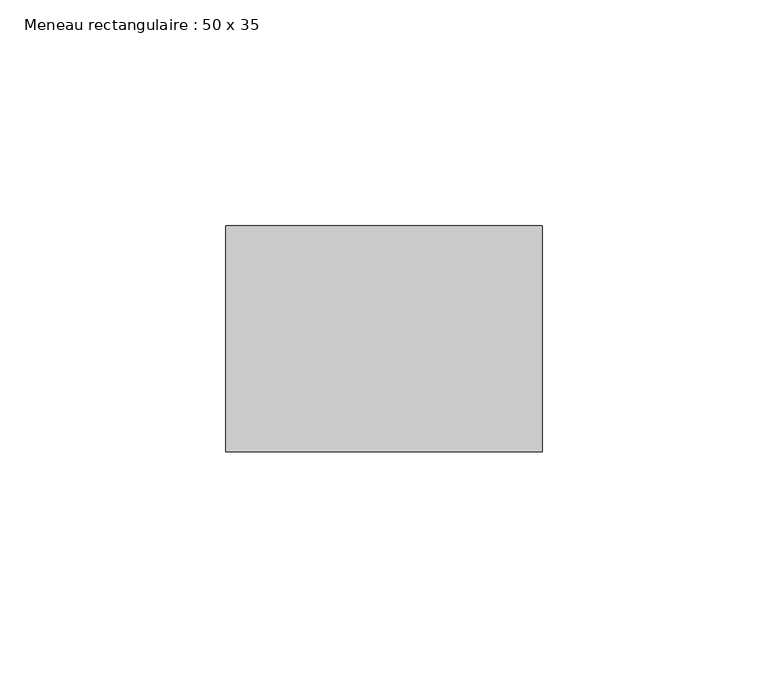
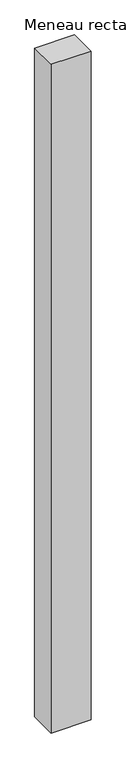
"""IFC4 building model written with IfcOpenShell, lengths in millimetres: member geometry, Meneau rectangulaire : 50 x 35."""

import ifcopenshell
import ifcopenshell.guid

model = None  # the IFC model being written
_history = None  # IfcOwnerHistory: only IFC2X3 demands one
_inside = {}  # id of a spatial element -> (the spatial element, [elements in it])
_under = {}  # id of a project, library or spatial element -> (it, [spatial elements below it])
_declared = {}  # id of a project -> (the project, [libraries it declares])
_typed = {}  # id of a type object -> (the type object, [elements of that type])
_made_of = {}  # id of a material, layer set ... -> (it, [elements and type objects made of it])


def new_model(schema):
    """Start an empty IFC model of exactly this schema.

    Asked for "IFC4X3", IfcOpenShell would pick the latest addendum, in which some entities
    have other attributes; the version numbers below select the first issue.
    IFC2X3 requires an IfcOwnerHistory on every rooted entity: one is made here for all.
    """
    global model, _history
    if schema == "IFC4X3":
        model = ifcopenshell.file(schema_version=(4, 3, 0, 0))
    else:
        model = ifcopenshell.file(schema=schema)
    _inside.clear()
    _under.clear()
    _declared.clear()
    _typed.clear()
    _made_of.clear()
    _history = None
    if model.schema == "IFC2X3":
        org = make("IfcOrganization", Name="unknown")
        user = make(
            "IfcPersonAndOrganization",
            ThePerson=make("IfcPerson", FamilyName="unknown"),
            TheOrganization=org,
        )
        app = make(
            "IfcApplication",
            ApplicationDeveloper=org,
            Version="unknown",
            ApplicationFullName="unknown",
            ApplicationIdentifier="unknown",
        )
        _history = make(
            "IfcOwnerHistory",
            OwningUser=user,
            OwningApplication=app,
            ChangeAction="ADDED",
            CreationDate=0,
        )
    return model


def make(cls, **values):
    """One entity of the class cls with the attributes given. An attribute that is None is left unset."""
    return model.create_entity(
        cls, **{name: value for name, value in values.items() if value is not None}
    )


def rooted(cls, **values):
    """An entity with a GlobalId (a new one), such as an element, a storey or a relation."""
    return make(cls, GlobalId=ifcopenshell.guid.new(), OwnerHistory=_history, **values)


def si_unit(unit_type, name, prefix=None):
    """IfcSIUnit, for example si_unit("LENGTHUNIT", "METRE", prefix="MILLI")."""
    return make("IfcSIUnit", UnitType=unit_type, Prefix=prefix, Name=name)


def assignment(units):
    """IfcUnitAssignment: the units of a project."""
    return None if units is None else make("IfcUnitAssignment", Units=units)


def point(xyz):
    """IfcCartesianPoint."""
    return None if xyz is None else make("IfcCartesianPoint", Coordinates=xyz)


def direction(xyz):
    """IfcDirection."""
    return None if xyz is None else make("IfcDirection", DirectionRatios=xyz)


def frame(location, z_axis=None, x_axis=None):
    """IfcAxis2Placement3D, a coordinate frame: its origin and axes. An axis left out is left unset."""
    return make(
        "IfcAxis2Placement3D",
        Location=point(location),
        Axis=direction(z_axis),
        RefDirection=direction(x_axis),
    )


def origin():
    """The frame at (0, 0, 0) with its axes left unset."""
    return frame((0.0, 0.0, 0.0))


def place(relative_to, where):
    """IfcLocalPlacement: puts the frame where relative to a parent placement (None: the world)."""
    return make(
        "IfcLocalPlacement", PlacementRelTo=relative_to, RelativePlacement=where
    )


def context(
    kind, dimensions, precision=None, world=None, true_north=None, identifier=None
):
    """IfcGeometricRepresentationContext, for example the 3D "Model" context."""
    return make(
        "IfcGeometricRepresentationContext",
        ContextIdentifier=identifier,
        ContextType=kind,
        CoordinateSpaceDimension=dimensions,
        Precision=precision,
        WorldCoordinateSystem=world,
        TrueNorth=true_north,
    )


def project(units=None, contexts=None):
    """IfcProject with its units and contexts."""
    return rooted(
        "IfcProject",
        Name="project",
        RepresentationContexts=contexts,
        UnitsInContext=assignment(units),
    )


def spatial(cls, under=None, at=None, **own):
    """A site, building, storey or space (cls), placed at a placement, below another one or the project."""
    s = rooted(cls, ObjectPlacement=at, **own)
    if under is not None:
        _under.setdefault(under.id(), (under, []))[1].append(s)
    return s


def polyline(points):
    """IfcPolyline through the points."""
    return make("IfcPolyline", Points=[point(p) for p in points])


def outline(outer, holes=None, kind="AREA"):
    """IfcArbitraryClosedProfileDef: a profile drawn as a closed curve; with holes, ...WithVoids."""
    if holes is None:
        return make("IfcArbitraryClosedProfileDef", ProfileType=kind, OuterCurve=outer)
    return make(
        "IfcArbitraryProfileDefWithVoids",
        ProfileType=kind,
        OuterCurve=outer,
        InnerCurves=holes,
    )


def extrude(swept, where, along, depth):
    """IfcExtrudedAreaSolid: the profile swept, set in the frame where, extruded along a direction by depth."""
    return make(
        "IfcExtrudedAreaSolid",
        SweptArea=swept,
        Position=where,
        ExtrudedDirection=direction(along),
        Depth=depth,
    )


def shape(context_of_items, identifier, shape_type, items):
    """IfcShapeRepresentation: the items that make up one representation, for example the "Body"."""
    return make(
        "IfcShapeRepresentation",
        ContextOfItems=context_of_items,
        RepresentationIdentifier=identifier,
        RepresentationType=shape_type,
        Items=items,
    )


def source(mapping_origin, context_of_items, identifier, shape_type, items):
    """IfcRepresentationMap: a shape defined once, which mapped items show again and again."""
    return make(
        "IfcRepresentationMap",
        MappingOrigin=mapping_origin,
        MappedRepresentation=shape(context_of_items, identifier, shape_type, items),
    )


def transform(
    local_origin,
    x_axis=None,
    y_axis=None,
    z_axis=None,
    scale=None,
    scale2=None,
    scale3=None,
    uniform=True,
):
    """IfcCartesianTransformationOperator3D, or its non-uniform kind. x_axis, y_axis, z_axis: its Axis1, 2, 3."""
    if uniform:
        return make(
            "IfcCartesianTransformationOperator3D",
            Axis1=direction(x_axis),
            Axis2=direction(y_axis),
            LocalOrigin=point(local_origin),
            Scale=scale,
            Axis3=direction(z_axis),
        )
    return make(
        "IfcCartesianTransformationOperator3DnonUniform",
        Axis1=direction(x_axis),
        Axis2=direction(y_axis),
        LocalOrigin=point(local_origin),
        Scale=scale,
        Axis3=direction(z_axis),
        Scale2=scale2,
        Scale3=scale3,
    )


def mapped(mapping_source, mapping_target):
    """IfcMappedItem: shows the shape of a source again, moved by a transform."""
    return make(
        "IfcMappedItem", MappingSource=mapping_source, MappingTarget=mapping_target
    )


def made_of(thing, what):
    """Note that an element or type object is made of a material, layer set ...; save() writes the relation."""
    if what is not None:
        _made_of.setdefault(what.id(), (what, []))[1].append(thing)
    return thing


def element(
    cls,
    number,
    at=None,
    inside=None,
    cuts=None,
    type_object=None,
    material=None,
    context=None,
    identifier="Body",
    shape_type=None,
    held_by="IfcProductDefinitionShape",
    body=None,
    shapes=None,
    **own,
):
    """One element of the class cls, such as IfcWall. Its Tag is "e" and its number.

    at: its placement. inside: the storey or other place that contains it. cuts: it is an
    opening in that element (IfcRelVoidsElement). A single representation is given by context,
    identifier, shape_type and body (its items); several are given by shapes. held_by: the class
    of the entity that holds the representations. save() writes the other relations.
    """
    e = rooted(cls, Tag="e%d" % number, ObjectPlacement=at, **own)
    if body is not None:
        shapes = [shape(context, identifier, shape_type, body)]
    if shapes is not None:
        e.Representation = make(held_by, Representations=shapes)
    if inside is not None:
        _inside.setdefault(inside.id(), (inside, []))[1].append(e)
    if cuts is not None:
        rooted(
            "IfcRelVoidsElement", RelatingBuildingElement=cuts, RelatedOpeningElement=e
        )
    if type_object is not None:
        _typed.setdefault(type_object.id(), (type_object, []))[1].append(e)
    return made_of(e, material)


def aggregate(whole, parts):
    """IfcRelAggregates: a whole, such as a stair, and the parts it consists of."""
    return rooted("IfcRelAggregates", RelatingObject=whole, RelatedObjects=parts)


def save(model, path):
    """Write the relations noted so far, then the file.

    IfcRelAggregates (storeys below a building ...), IfcRelContainedInSpatialStructure (elements
    in a storey), IfcRelDefinesByType, IfcRelAssociatesMaterial and IfcRelDeclares: one each for
    every whole, place, type object, material and project.
    """
    for whole, parts in _under.values():
        aggregate(whole, parts)
    for where, things in _inside.values():
        rooted(
            "IfcRelContainedInSpatialStructure",
            RelatedElements=things,
            RelatingStructure=where,
        )
    for kind, things in _typed.values():
        rooted("IfcRelDefinesByType", RelatedObjects=things, RelatingType=kind)
    for what, things in _made_of.values():
        rooted("IfcRelAssociatesMaterial", RelatedObjects=things, RelatingMaterial=what)
    for by, libraries in _declared.values():
        rooted("IfcRelDeclares", RelatingContext=by, RelatedDefinitions=libraries)
    model.write(path)


def meneau_rectangulaire_50_x_35_3627b11c(model_context):
    return source(origin(), model_context, "Body", "SweptSolid", [
        extrude(outline(polyline([(0.0, 0.0), (0.0, -50.0), (-70.0, -50.0), (-70.0, 0.0), (0.0, 0.0)])), frame((0.0, 0.0, -1241.7311177), z_axis=(0.0, 0.0, 1.0), x_axis=(1.0, 0.0, 0.0)), (0.0, 0.0, 1.0), 1241.7311177),
    ])


if __name__ == "__main__":
    model = new_model("IFC4")
    model_context = context("Model", 3, world=origin())
    ifc_project = project(units=[si_unit("LENGTHUNIT", "METRE", prefix="MILLI")], contexts=[model_context])
    site = spatial("IfcSite", under=ifc_project)
    building = spatial("IfcBuilding", under=site)
    placement = place(None, origin())
    meneau_rectangulaire_50_x_35_shape = meneau_rectangulaire_50_x_35_3627b11c(model_context)
    element("IfcMember", 1, ObjectType="Meneau rectangulaire : 50 x 35", at=placement, inside=building, context=model_context, shape_type="MappedRepresentation", body=[
        mapped(meneau_rectangulaire_50_x_35_shape, transform((0.0, 0.0, 0.0), x_axis=(1.0, 0.0, 0.0), y_axis=(0.0, 1.0, 0.0), z_axis=(0.0, 0.0, 1.0))),
    ])
    save(model, "model.ifc")
